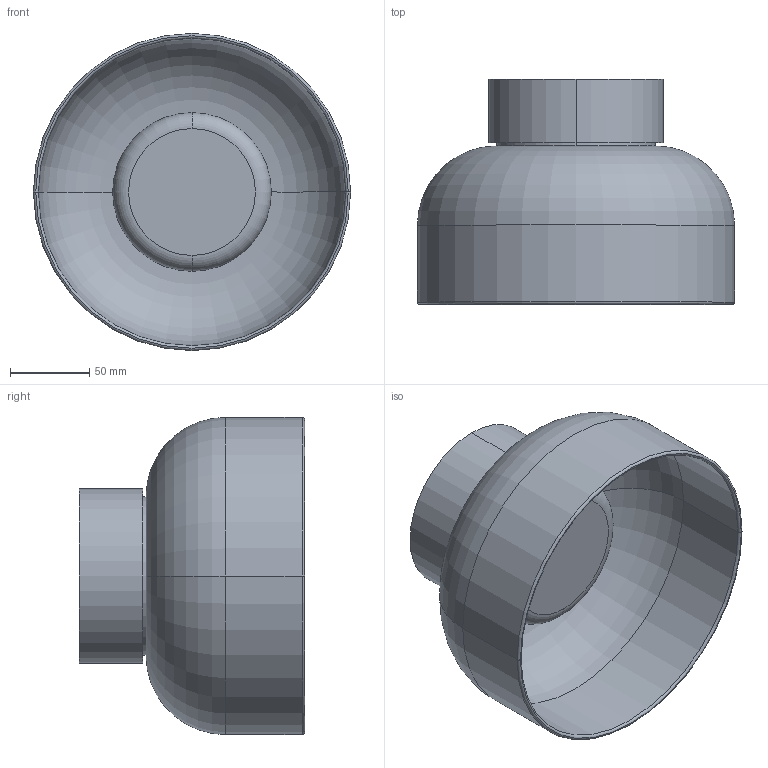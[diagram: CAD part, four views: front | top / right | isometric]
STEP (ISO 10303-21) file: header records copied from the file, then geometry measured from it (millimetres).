
FILE_DESCRIPTION (( 'STEP AP214' ), '1' );
FILE_NAME ('IPON_AU1316.STEP', '2026-06-05T08:04:01', ( '' ), ( '' ), 'SwSTEP 2.0', 'SolidWorks 2023', '' );
FILE_SCHEMA (( 'AUTOMOTIVE_DESIGN' ));
Length unit declared in the file: millimetre
Products named in the file (1): IPON_AU1316
Bounding box: 200 x 142 x 200 mm (x, y, z)
Volume: 911825.6 mm3; surface area: 246916.6 mm2
Topology: 5 solids, 5 shells, 35 faces, 60 edges, 36 vertices
Faces by surface type: cylinder 14, plane 11, torus 10
Entity records: 903 total; most frequent: DIRECTION 178, CARTESIAN_POINT 132, ORIENTED_EDGE 120, AXIS2_PLACEMENT_3D 82, EDGE_CURVE 60, CIRCLE 46, EDGE_LOOP 36, VERTEX_POINT 36
